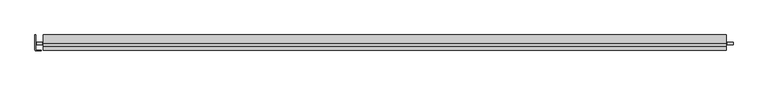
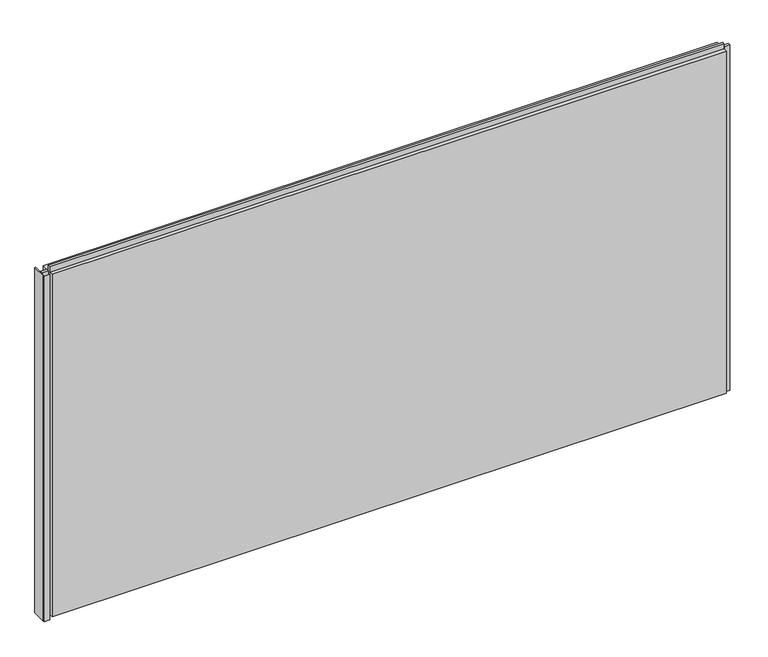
"""IFC4 building model written with IfcOpenShell, lengths in millimetres: plate geometry, Trimo_Qbiss Screen_Normal Panel-HORIZONTAL : HR - FB."""

from ifc_helpers import new_model, si_unit, frame, origin, place, context, project, spatial, polyline, outline, extrude, source, transform, mapped, element, save


def plate_2034ec5e(model_context):
    return source(origin(), model_context, "Body", "SweptSolid", [
        extrude(outline(polyline([(-1119.0, 100.0), (-1119.0, 50.0), (-1101.5, 50.0), (-1101.5, 49.2), (-1119.8, 49.2), (-1119.8, 99.2), (-1120.8, 99.2), (-1120.8, 52.0), (-1121.6, 52.0), (-1121.6, 100.0), (-1119.0, 100.0)])), frame((0.0, 0.0, -1.0), z_axis=(0.0, 0.0, 1.0), x_axis=(1.0, 0.0, 0.0)), (0.0, 0.0, 1.0), 1200.0),
        extrude(outline(polyline([(-1097.0, 76.5978162), (-1097.0, 67.8978162), (-1116.0, 67.8978162), (-1116.0, 76.5978162), (-1097.0, 76.5978162)])), frame((0.0, 0.0, -1.0), z_axis=(0.0, 0.0, 1.0), x_axis=(1.0, 0.0, 0.0)), (0.0, 0.0, 1.0), 1200.0),
        extrude(outline(polyline([(1125.5, 67.8978162), (1125.5, 76.5978162), (1144.5, 76.5978162), (1144.5, 67.8978162), (1125.5, 67.8978162)])), frame((0.0, 0.0, -1.0), z_axis=(0.0, 0.0, 1.0), x_axis=(1.0, 0.0, 0.0)), (0.0, 0.0, 1.0), 1200.0),
        extrude(outline(polyline([(71.0, 1196.0), (100.0, 1196.0), (100.0, 0.0), (72.0, 0.0), (72.0, 15.5), (62.0, 15.5), (62.0, 7.0), (50.0, 7.0), (50.0, 1196.0), (63.0, 1196.0), (63.0, 1214.5), (71.0, 1214.5), (71.0, 1196.0)])), frame((-1094.0, 0.0, 0.0), z_axis=(1.0, 0.0, 0.0), x_axis=(0.0, 1.0, 0.0)), (0.0, 0.0, 1.0), 2216.5),
    ])


if __name__ == "__main__":
    model = new_model("IFC4")
    model_context = context("Model", 3, world=origin())
    ifc_project = project(units=[si_unit("LENGTHUNIT", "METRE", prefix="MILLI")], contexts=[model_context])
    site = spatial("IfcSite", under=ifc_project)
    building = spatial("IfcBuilding", under=site)
    placement = place(None, origin())
    plate_shape = plate_2034ec5e(model_context)
    element("IfcPlate", 1, ObjectType="Trimo_Qbiss Screen_Normal Panel-HORIZONTAL : HR - FB", at=placement, inside=building, context=model_context, shape_type="MappedRepresentation", body=[
        mapped(plate_shape, transform((0.0, 0.0, 0.0), x_axis=(1.0, 0.0, 0.0), y_axis=(0.0, 1.0, 0.0), z_axis=(0.0, 0.0, 1.0))),
    ])
    save(model, "model.ifc")
